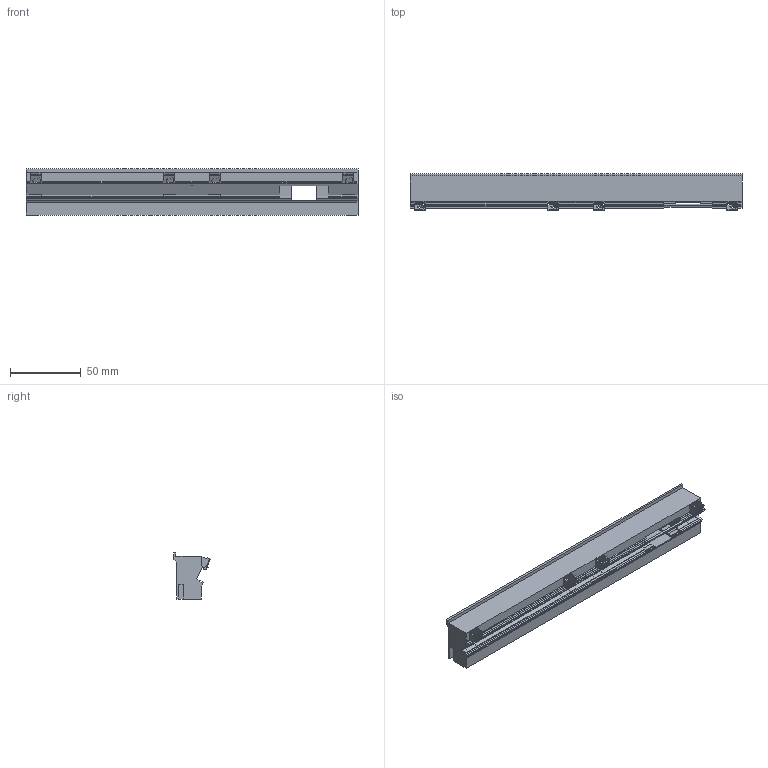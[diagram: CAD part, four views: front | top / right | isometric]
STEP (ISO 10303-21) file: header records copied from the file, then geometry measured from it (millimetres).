
FILE_DESCRIPTION(('Open CASCADE Model'),'2;1');
FILE_NAME('SOLID','2026-10-21T18:51:17',('Author'),('Open CASCADE'), 'Open CASCADE STEP processor 8.0','build123d','Unknown');
FILE_SCHEMA(('AUTOMOTIVE_DESIGN { 1 0 10303 214 1 1 1 1 }'));
Products named in the file (1): SOLID
Bounding box: 234 x 25.92 x 32.5 mm (x, y, z)
Volume: 117083.5 mm3; surface area: 31094.9 mm2
Topology: 1 solids, 1 shells, 657 faces, 1874 edges, 1204 vertices
Faces by surface type: plane 381, cylinder 276
Entity records: 50230 total; most frequent: CARTESIAN_POINT 14511, DIRECTION 6356, ORIENTED_EDGE 3748, PCURVE 3748, DEFINITIONAL_REPRESENTATION 3748, LINE 3033, VECTOR 3033, EDGE_CURVE 1874
